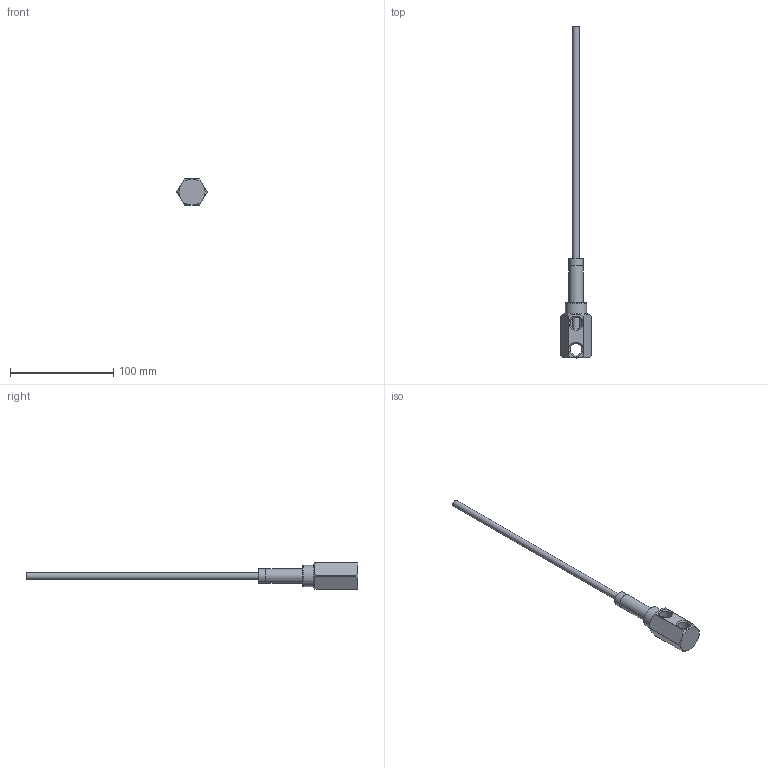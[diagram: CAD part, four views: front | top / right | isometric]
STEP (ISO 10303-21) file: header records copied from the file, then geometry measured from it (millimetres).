
FILE_DESCRIPTION(/* description */ (''),/* implementation_level */ '2;1');
FILE_NAME(/* name */ 'C:/Users/drich/Desktop/141N-4-HFT v1.step',/* time_stamp */ '2020-01-15T19:36:56-06:00',/* author */ (''),/* organization */ (''),/* preprocessor_version */ 'ST-DEVELOPER v18',/* originating_system */ 'Autodesk Translation Framework v8.12.0.6',/* authorisation */ '');
FILE_SCHEMA (('AUTOMOTIVE_DESIGN { 1 0 10303 214 3 1 1 }'));
Length unit declared in the file: inch
Products named in the file (4): 141N-4-HFT; 141H-4; SSPN14-2; HF250T-12
Assembly tree (3 placements, depth 2):
  141N-4-HFT
    141H-4
    SSPN14-2
    HF250T-12
Bounding box: 29.26 x 321.39 x 25.4 mm (x, y, z)
Volume: 25935.6 mm3; surface area: 22886.1 mm2
Topology: 3 solids, 3 shells, 57 faces, 153 edges, 104 vertices
Faces by surface type: cylinder 21, plane 17, cone 14, torus 5
Full cylindrical faces by diameter (mm): 5.842 x1, 6.35 x1, 6.909 x1, 7.818 x1, 7.976 x1, 9.246 x1, 11.668 x4, 13.665 x2, 13.716 x1, 20.625 x1
Entity records: 2034 total; most frequent: CARTESIAN_POINT 412, DIRECTION 354, ORIENTED_EDGE 306, AXIS2_PLACEMENT_3D 158, EDGE_CURVE 153, VERTEX_POINT 104, CIRCLE 92, EDGE_LOOP 71
